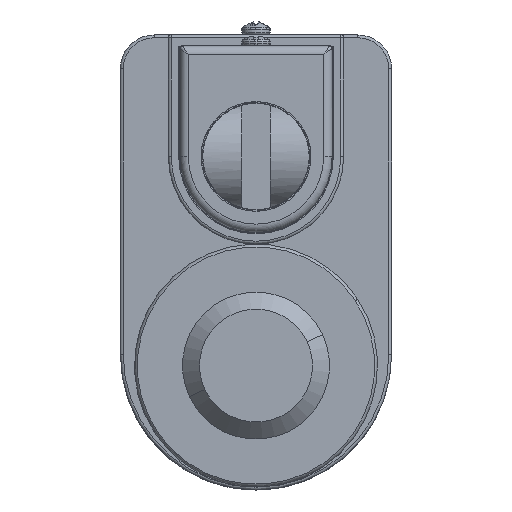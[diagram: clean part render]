
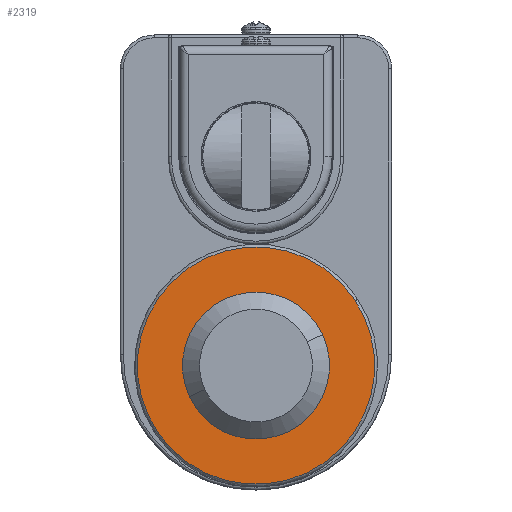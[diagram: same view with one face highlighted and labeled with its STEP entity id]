
A CAD part, left-side view. The second image highlights one B-rep face of the part: STEP entity #2319.
In plain terms, the highlighted planar face has unit normal (-1, 0, 0).
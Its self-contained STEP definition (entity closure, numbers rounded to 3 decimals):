
#2241 = VERTEX_POINT ( 'NONE', #6728 ) ;
#2243 = EDGE_CURVE ( 'NONE', #2244, #2241, #6727, .T. ) ;
#2244 = VERTEX_POINT ( 'NONE', #6722 ) ;
#2297 = EDGE_CURVE ( 'NONE', #2330, #2327, #6802, .T. ) ;
#2318 = EDGE_CURVE ( 'NONE', #2241, #2244, #6760, .T. ) ;
#2319 = ADVANCED_FACE ( 'NONE', ( #6755, #6754 ), #6753, .F. ) ;
#2320 = EDGE_LOOP ( 'NONE', ( #2321, #2322 ) ) ;
#2321 = ORIENTED_EDGE ( 'NONE', *, *, #2243, .T. ) ;
#2322 = ORIENTED_EDGE ( 'NONE', *, *, #2318, .T. ) ;
#2323 = EDGE_LOOP ( 'NONE', ( #2324, #2354 ) ) ;
#2324 = ORIENTED_EDGE ( 'NONE', *, *, #2297, .F. ) ;
#2327 = VERTEX_POINT ( 'NONE', #6744 ) ;
#2329 = EDGE_CURVE ( 'NONE', #2327, #2330, #6743, .T. ) ;
#2330 = VERTEX_POINT ( 'NONE', #6738 ) ;
#2354 = ORIENTED_EDGE ( 'NONE', *, *, #2329, .F. ) ;
#6722 = CARTESIAN_POINT ( 'NONE',  ( -82., 11.782, -42.494 ) ) ;
#6723 = DIRECTION ( 'NONE',  ( 0., 0.906, -0.423 ) ) ;
#6724 = DIRECTION ( 'NONE',  ( 1., 0., 0. ) ) ;
#6725 = CARTESIAN_POINT ( 'NONE',  ( -82., 0., -37. ) ) ;
#6726 = AXIS2_PLACEMENT_3D ( 'NONE', #6725, #6724, #6723 ) ;
#6727 = CIRCLE ( 'NONE', #6726, 13. ) ;
#6728 = CARTESIAN_POINT ( 'NONE',  ( -82., -11.782, -31.506 ) ) ;
#6738 = CARTESIAN_POINT ( 'NONE',  ( -82., -19.032, -28.125 ) ) ;
#6739 = DIRECTION ( 'NONE',  ( 0., 0.906, -0.423 ) ) ;
#6740 = DIRECTION ( 'NONE',  ( 1., 0., 0. ) ) ;
#6741 = CARTESIAN_POINT ( 'NONE',  ( -82., 0., -37. ) ) ;
#6742 = AXIS2_PLACEMENT_3D ( 'NONE', #6741, #6740, #6739 ) ;
#6743 = CIRCLE ( 'NONE', #6742, 21. ) ;
#6744 = CARTESIAN_POINT ( 'NONE',  ( -82., 19.032, -45.875 ) ) ;
#6749 = DIRECTION ( 'NONE',  ( 0., 0.906, -0.423 ) ) ;
#6750 = DIRECTION ( 'NONE',  ( 1., 0., 0. ) ) ;
#6751 = CARTESIAN_POINT ( 'NONE',  ( -82., 0., -37. ) ) ;
#6752 = AXIS2_PLACEMENT_3D ( 'NONE', #6751, #6750, #6749 ) ;
#6753 = PLANE ( 'NONE',  #6752 ) ;
#6754 = FACE_OUTER_BOUND ( 'NONE', #2323, .T. ) ;
#6755 = FACE_BOUND ( 'NONE', #2320, .T. ) ;
#6756 = DIRECTION ( 'NONE',  ( 0., 0.906, -0.423 ) ) ;
#6757 = DIRECTION ( 'NONE',  ( 1., 0., 0. ) ) ;
#6758 = CARTESIAN_POINT ( 'NONE',  ( -82., 0., -37. ) ) ;
#6759 = AXIS2_PLACEMENT_3D ( 'NONE', #6758, #6757, #6756 ) ;
#6760 = CIRCLE ( 'NONE', #6759, 13. ) ;
#6794 = DIRECTION ( 'NONE',  ( 0., 0.906, -0.423 ) ) ;
#6795 = DIRECTION ( 'NONE',  ( 1., 0., 0. ) ) ;
#6796 = CARTESIAN_POINT ( 'NONE',  ( -82., 0., -37. ) ) ;
#6797 = AXIS2_PLACEMENT_3D ( 'NONE', #6796, #6795, #6794 ) ;
#6802 = CIRCLE ( 'NONE', #6797, 21. ) ;
